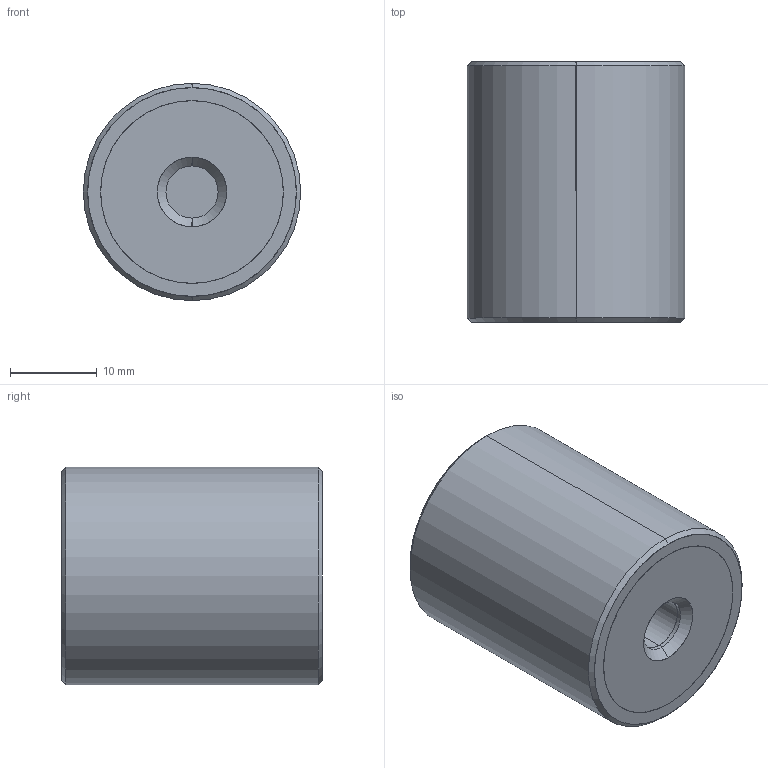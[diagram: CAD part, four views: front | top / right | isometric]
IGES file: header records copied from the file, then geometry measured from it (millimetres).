
Start section: SolidWorks IGES file using analytic representation for surfaces
Global section: file name: E:\WIXROYD 20180701\61080_v2\61080_v2_20180409_IGES\61080.W0253.igs; native system: SolidWorks 2017; preprocessor: SolidWorks 2017; author: liam_; date: 180716.214334; units: millimetre
Bounding box: 25 x 30 x 25 mm (x, y, z)
Surface area: 5166.2 mm2 (no closed solid volume)
Topology: 0 solids, 0 shells, 36 faces, 680 edges, 680 vertices
Faces by surface type: revolution 26, bspline 10
